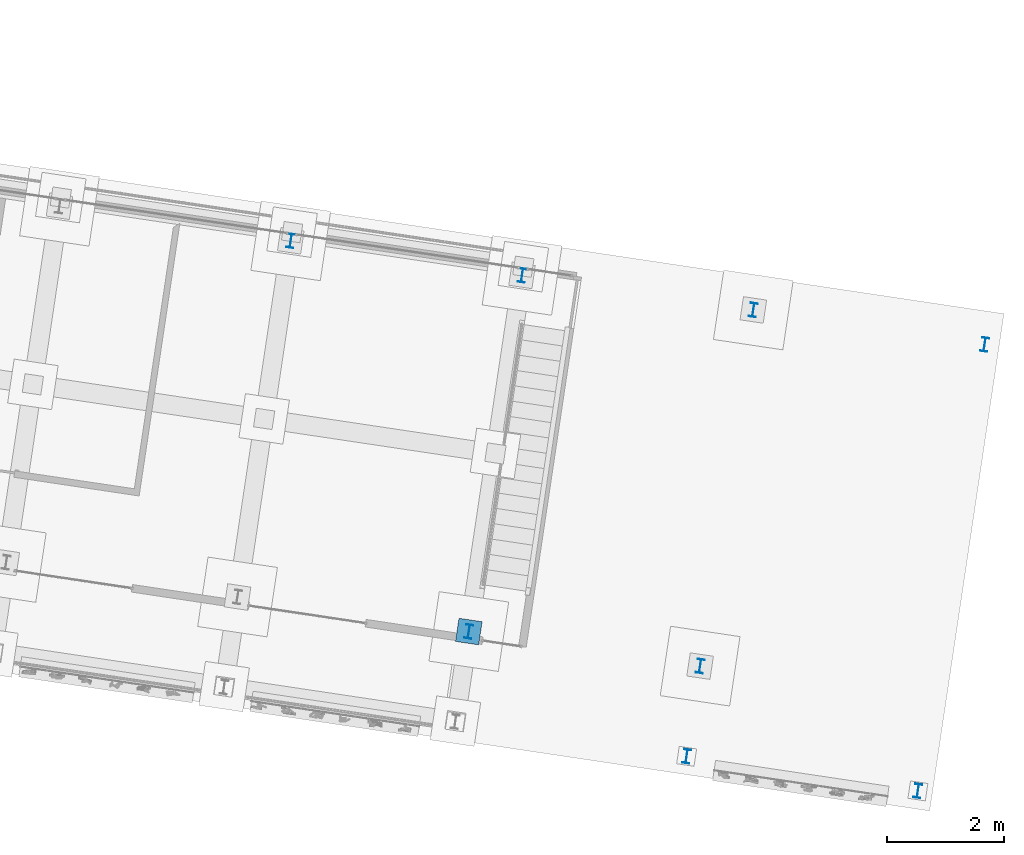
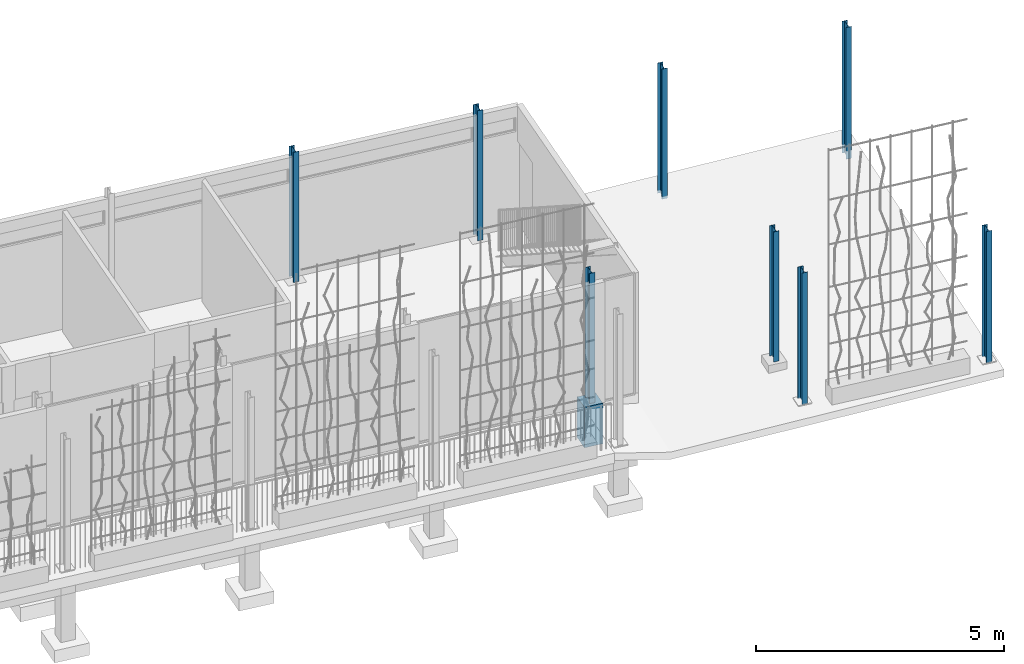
# One storey, part 5 of 142: 9 columns.
"""IFC4 building model written with IfcOpenShell, lengths in metres."""

from ifc_helpers import new_model, si_unit, direction, frame, origin_with_axes, place, context, subcontext, project, spatial, polyline, i_section, outline, extrude, material, material_profile, profile_set, profile_usage, type_object, element, save


model = new_model("IFC4")

# Units and contexts
model_context = context("Model", 3, precision=1e-05, world=origin_with_axes(), true_north=direction((0.0, 1.0)))
body_context = subcontext(model_context, "Body", "Model", "MODEL_VIEW")
ifc_project = project(units=[si_unit("LENGTHUNIT", "METRE"), si_unit("AREAUNIT", "SQUARE_METRE"), si_unit("VOLUMEUNIT", "CUBIC_METRE")], contexts=[model_context])

# Site, building, storey
site_placement = place(None, origin_with_axes())
site = spatial("IfcSite", under=ifc_project, at=site_placement, Name="Lares · Rua das Mercês · artigo 4771")
building_placement = place(site_placement, frame((15.0, 9.7, 14.65), z_axis=(0.0, 0.0, 1.0), x_axis=(0.989015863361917, -0.147809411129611, 0.0)))
building = spatial("IfcBuilding", under=site, at=building_placement, Name="Casa Sobreposta")
storey_placement = place(building_placement, origin_with_axes())
storey = spatial("IfcBuildingStorey", under=building, at=storey_placement, Name="00 · Habitação e estacionamento", Elevation=14.65)

# Columns
ifc_material_1 = material(Name="Aço pintado / Stahl lackiert", Category="steel")
ifc_material_profile = material_profile(ifc_material_1, i_section(OverallWidth=0.12, OverallDepth=0.24, WebThickness=0.0062, FlangeThickness=0.0098))
ifc_profile_set = profile_set([ifc_material_profile], Name="IPE240")
ifc_profile_usage_1 = profile_usage(ifc_profile_set)
column_type = type_object("IfcColumnType", Name="IPE240 / steel", PredefinedType="NOTDEFINED", material=ifc_profile_set)
column_1_placement = place(storey_placement, frame((20.0, 6.28, 0.0), z_axis=(0.0, 0.0, 1.0), x_axis=(1.0, 0.0, 0.0)))
element("IfcColumn", 1, at=column_1_placement, inside=storey, type_object=column_type, material=ifc_profile_usage_1, Name="Pilar 6B · IPE240", context=body_context, shape_type="SweptSolid", body=[
    extrude(i_section(OverallWidth=0.12, OverallDepth=0.24, WebThickness=0.0062, FlangeThickness=0.0098), origin_with_axes(), (0.0, 0.0, 1.0), 3.208),
])
ifc_profile_usage_2 = profile_usage(ifc_profile_set)
column_2_placement = place(storey_placement, frame((24.0, 0.12, 0.0), z_axis=(0.0, 0.0, 1.0), x_axis=(1.0, 0.0, 0.0)))
element("IfcColumn", 2, at=column_2_placement, inside=storey, type_object=column_type, material=ifc_profile_usage_2, Name="Pilar 7A · IPE240", context=body_context, shape_type="SweptSolid", body=[
    extrude(i_section(OverallWidth=0.12, OverallDepth=0.24, WebThickness=0.0062, FlangeThickness=0.0098), origin_with_axes(), (0.0, 0.0, 1.0), 3.208),
])
ifc_profile_usage_3 = profile_usage(ifc_profile_set)
column_3_placement = place(storey_placement, frame((24.0, 6.28, 0.0), z_axis=(0.0, 0.0, 1.0), x_axis=(1.0, 0.0, 0.0)))
element("IfcColumn", 3, at=column_3_placement, inside=storey, type_object=column_type, material=ifc_profile_usage_3, Name="Pilar 7B · IPE240", context=body_context, shape_type="SweptSolid", body=[
    extrude(i_section(OverallWidth=0.12, OverallDepth=0.24, WebThickness=0.0062, FlangeThickness=0.0098), origin_with_axes(), (0.0, 0.0, 1.0), 3.208),
])
ifc_profile_usage_4 = profile_usage(ifc_profile_set)
column_4_placement = place(storey_placement, frame((28.0, 0.12, 0.0), z_axis=(0.0, 0.0, 1.0), x_axis=(1.0, 0.0, 0.0)))
element("IfcColumn", 4, at=column_4_placement, inside=storey, type_object=column_type, material=ifc_profile_usage_4, Name="Pilar 8A · IPE240", context=body_context, shape_type="SweptSolid", body=[
    extrude(i_section(OverallWidth=0.12, OverallDepth=0.24, WebThickness=0.0062, FlangeThickness=0.0098), origin_with_axes(), (0.0, 0.0, 1.0), 3.208),
])
ifc_profile_usage_5 = profile_usage(ifc_profile_set)
column_5_placement = place(storey_placement, frame((28.0, 6.28, 0.0), z_axis=(0.0, 0.0, 1.0), x_axis=(1.0, 0.0, 0.0)))
element("IfcColumn", 5, at=column_5_placement, inside=storey, type_object=column_type, material=ifc_profile_usage_5, Name="Pilar 8B · IPE240", context=body_context, shape_type="SweptSolid", body=[
    extrude(i_section(OverallWidth=0.12, OverallDepth=0.24, WebThickness=0.0062, FlangeThickness=0.0098), origin_with_axes(), (0.0, 0.0, 1.0), 3.208),
])
ifc_profile_usage_6 = profile_usage(ifc_profile_set)
column_6_placement = place(storey_placement, frame((28.0, -1.44, -0.04), z_axis=(0.0, 0.0, 1.0), x_axis=(1.0, 0.0, 0.0)))
element("IfcColumn", 6, at=column_6_placement, inside=storey, type_object=column_type, material=ifc_profile_usage_6, Name="Projeção estufa · pilar sul ao pódio", context=body_context, shape_type="SweptSolid", body=[
    extrude(i_section(OverallWidth=0.12, OverallDepth=0.24, WebThickness=0.0062, FlangeThickness=0.0098), origin_with_axes(), (0.0, 0.0, 1.0), 3.248),
])
ifc_profile_usage_7 = profile_usage(ifc_profile_set)
column_7_placement = place(storey_placement, frame((32.0, -1.44, -0.04), z_axis=(0.0, 0.0, 1.0), x_axis=(1.0, 0.0, 0.0)))
element("IfcColumn", 7, at=column_7_placement, inside=storey, type_object=column_type, material=ifc_profile_usage_7, Name="Projeção estufa · pilar sul ao pódio", context=body_context, shape_type="SweptSolid", body=[
    extrude(i_section(OverallWidth=0.12, OverallDepth=0.24, WebThickness=0.0062, FlangeThickness=0.0098), origin_with_axes(), (0.0, 0.0, 1.0), 3.248),
])
ifc_profile_usage_8 = profile_usage(ifc_profile_set)
column_8_placement = place(storey_placement, frame((32.0, 6.28, -0.04), z_axis=(0.0, 0.0, 1.0), x_axis=(1.0, 0.0, 0.0)))
element("IfcColumn", 8, at=column_8_placement, inside=storey, type_object=column_type, material=ifc_profile_usage_8, Name="Projeção estufa · pilar nascente norte", context=body_context, shape_type="SweptSolid", body=[
    extrude(i_section(OverallWidth=0.12, OverallDepth=0.24, WebThickness=0.0062, FlangeThickness=0.0098), origin_with_axes(), (0.0, 0.0, 1.0), 3.248),
])
ifc_material_2 = material(Name="Betão armado / Stahlbeton", Category="concrete")
column_9_placement = place(storey_placement, frame((0.0, 0.0, -1.0), z_axis=(0.0, 0.0, 1.0), x_axis=(1.0, 0.0, 0.0)))
element("IfcColumn", 9, at=column_9_placement, inside=storey, material=ifc_material_2, Name="Pedestal 7A · betão 400 x 400", context=body_context, shape_type="SweptSolid", body=[
    extrude(outline(polyline([(24.2, -0.08), (24.2, 0.32), (23.8, 0.32), (23.8, -0.08), (24.2, -0.08)])), origin_with_axes(), (0.0, 0.0, 1.0), 1.0),
])

save(model, "model.ifc")
